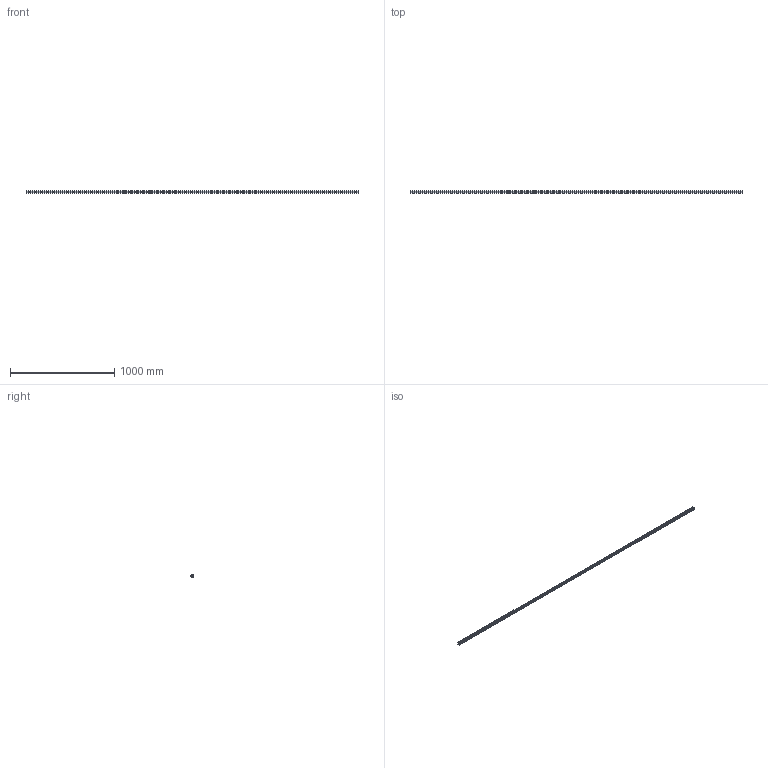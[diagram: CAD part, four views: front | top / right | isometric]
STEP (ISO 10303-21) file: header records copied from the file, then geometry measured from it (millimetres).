
FILE_DESCRIPTION (( 'STEP AP203' ), '1' );
FILE_NAME ('L1018.25R-3180.step', '2023-08-06T10:46:17', ( '' ), ( '' ), 'SwSTEP 2.0', 'SolidWorks 2019', '' );
FILE_SCHEMA (( 'CONFIG_CONTROL_DESIGN' ));
Length unit declared in the file: millimetre
Products named in the file (1): L1018.25R-3180
Bounding box: 3180 x 21.8 x 25 mm (x, y, z)
Volume: 1322524.2 mm3; surface area: 316619.2 mm2
Topology: 1 solids, 1 shells, 506 faces, 1141 edges, 637 vertices
Faces by surface type: cylinder 215, cone 212, plane 79
Entity records: 13400 total; most frequent: DIRECTION 2585, CARTESIAN_POINT 2179, ORIENTED_EDGE 2070, AXIS2_PLACEMENT_3D 1043, EDGE_CURVE 1035, VERTEX_POINT 637, EDGE_LOOP 612, CIRCLE 536
